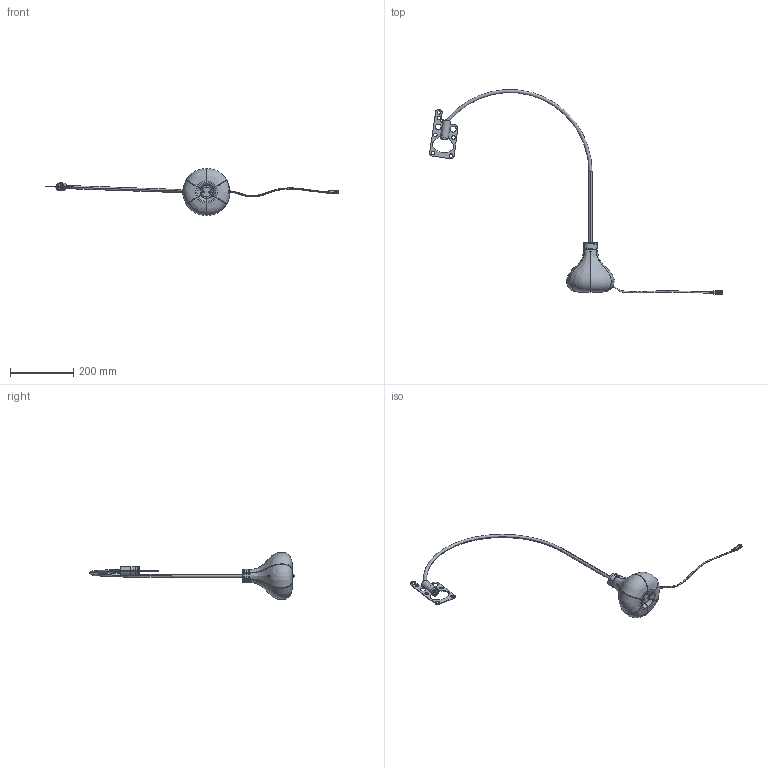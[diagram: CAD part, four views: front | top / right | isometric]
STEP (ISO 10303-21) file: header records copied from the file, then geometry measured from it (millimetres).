
FILE_DESCRIPTION (( 'STEP AP203' ), '1' );
FILE_NAME ('LTBUL-BO-SACCO.STEP', '2023-03-08T09:32:53', ( '' ), ( '' ), 'SwSTEP 2.0', 'SolidWorks 2022', '' );
FILE_SCHEMA (( 'CONFIG_CONTROL_DESIGN' ));
Length unit declared in the file: millimetre
Products named in the file (18): AXO07.LT01.C040.R00.STEP; Snodo Sacla 19716-03.STEP; AXO07.LT01.AM01.R01.STEP; AXO07.LT01.C038.R00.STEP; AXO07.LT01.AS01.R00.STEP; AXO07.LT01.C006.R0B.STEP; AXO07.LT01.C002.R00.STEP; AXO07.LT01.AF01.R01.STEP; AXO07.LT01.C009.R02.STEP; Snodo Sacla 19716-02.STEP; Snodo Sacla 19716-01.STEP; AXO07.LT01.C001.R01.STEP; socket set screw flat point_1_iso_ISO 4026 - M3 x 16-C.STEP; Lente LED PMMA Ø20 3 posizioni EA LM020.0XX.00.STEP; Snodo Sacla 19716.STEP; AXO07.LT01.C003.R01.STEP; LTBUL-BO-SACCO; AXO07.LT01.C099.R00 Lumberg Presa NEK_J_250.STEP
Assembly tree (17 placements, depth 5):
  LTBUL-BO-SACCO
    AXO07.LT01.AF01.R01.STEP
      AXO07.LT01.AM01.R01.STEP
        Snodo Sacla 19716.STEP
          Snodo Sacla 19716-01.STEP
          Snodo Sacla 19716-03.STEP
          Snodo Sacla 19716-02.STEP
        AXO07.LT01.C006.R0B.STEP
        AXO07.LT01.C009.R02.STEP
        Lente LED PMMA Ø20 3 posizioni EA LM020.0XX.00.STEP
      AXO07.LT01.AS01.R00.STEP
        AXO07.LT01.C002.R00.STEP
      AXO07.LT01.C001.R01.STEP
      AXO07.LT01.C003.R01.STEP
      AXO07.LT01.C038.R00.STEP
      AXO07.LT01.C040.R00.STEP
      socket set screw flat point_1_iso_ISO 4026 - M3 x 16-C.STEP
      AXO07.LT01.C099.R00 Lumberg Presa NEK_J_250.STEP
Bounding box: 926.65 x 647.54 x 149.92 mm (x, y, z)
Volume: 183022.9 mm3; surface area: 226052.1 mm2
Topology: 19 solids, 19 shells, 856 faces, 2188 edges, 1394 vertices
Faces by surface type: cylinder 371, plane 312, bspline 76, cone 62, torus 33, sphere 2
Entity records: 44273 total; most frequent: CARTESIAN_POINT 22283, ORIENTED_EDGE 4358, DIRECTION 4003, EDGE_CURVE 2179, AXIS2_PLACEMENT_3D 1532, VERTEX_POINT 1393, EDGE_LOOP 974, VECTOR 939
